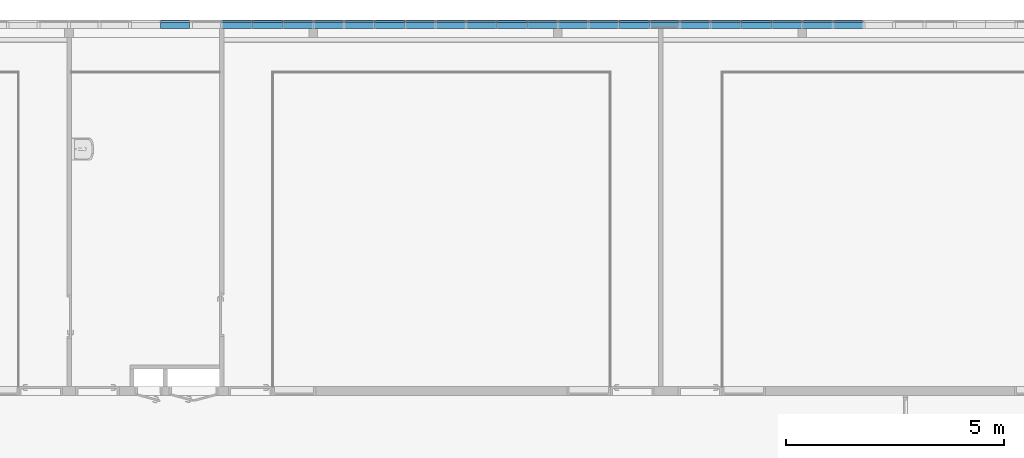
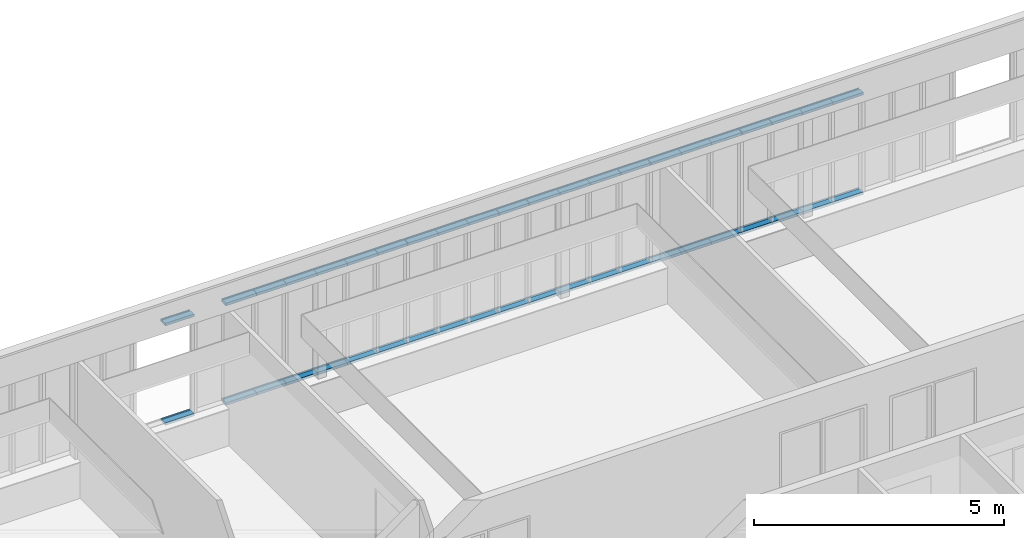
# One storey, part 11 of 87: 54 members, 1 element without a shape of its own.
"""IFC2X3 building model written with IfcOpenShell, lengths in centimetres."""

from ifc_helpers import new_model, entity, si_unit, converted_unit, derived_unit, direction, frame, origin, place, context, subcontext, project, spatial, polyline, outline, extrude, source, transform, mapped, material, type_object, type_shapes, element, aggregate, save


model = new_model("IFC2X3")

# Units and contexts
model_context = context("Model", 3, precision=0.001, world=origin(), true_north=direction((6.12303176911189e-17, 1.0)))
body_context = subcontext(model_context, "Body", "Model", "MODEL_VIEW")
ifc_project = project(units=[si_unit("LENGTHUNIT", "METRE", prefix="CENTI"), si_unit("AREAUNIT", "SQUARE_METRE"), si_unit("VOLUMEUNIT", "CUBIC_METRE"), converted_unit("PLANEANGLEUNIT", "DEGREE", entity("IfcRatioMeasure", 0.0174532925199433), si_unit("PLANEANGLEUNIT", "RADIAN"), dimensions=[0, 0, 0, 0, 0, 0, 0]), si_unit("MASSUNIT", "GRAM", prefix="KILO"), derived_unit("MASSDENSITYUNIT", [(si_unit("MASSUNIT", "GRAM", prefix="KILO"), 1), (si_unit("LENGTHUNIT", "METRE"), -3)]), si_unit("TIMEUNIT", "SECOND"), si_unit("FREQUENCYUNIT", "HERTZ"), si_unit("THERMODYNAMICTEMPERATUREUNIT", "DEGREE_CELSIUS"), derived_unit("THERMALTRANSMITTANCEUNIT", [(si_unit("MASSUNIT", "GRAM", prefix="KILO"), 1), (si_unit("THERMODYNAMICTEMPERATUREUNIT", "KELVIN"), -1), (si_unit("TIMEUNIT", "SECOND"), -3)]), derived_unit("VOLUMETRICFLOWRATEUNIT", [(si_unit("LENGTHUNIT", "METRE"), 3), (si_unit("TIMEUNIT", "SECOND"), -1)]), si_unit("ELECTRICCURRENTUNIT", "AMPERE"), si_unit("ELECTRICVOLTAGEUNIT", "VOLT"), si_unit("POWERUNIT", "WATT"), si_unit("FORCEUNIT", "NEWTON", prefix="KILO"), si_unit("ILLUMINANCEUNIT", "LUX"), si_unit("LUMINOUSFLUXUNIT", "LUMEN"), si_unit("LUMINOUSINTENSITYUNIT", "CANDELA"), derived_unit("USERDEFINED", [(si_unit("MASSUNIT", "GRAM", prefix="KILO"), -1), (si_unit("LENGTHUNIT", "METRE"), -2), (si_unit("TIMEUNIT", "SECOND"), 3), (si_unit("LUMINOUSFLUXUNIT", "LUMEN"), 1)]), derived_unit("LINEARVELOCITYUNIT", [(si_unit("LENGTHUNIT", "METRE"), 1), (si_unit("TIMEUNIT", "SECOND"), -1)]), si_unit("PRESSUREUNIT", "PASCAL"), derived_unit("USERDEFINED", [(si_unit("LENGTHUNIT", "METRE"), -2), (si_unit("MASSUNIT", "GRAM", prefix="KILO"), 1), (si_unit("TIMEUNIT", "SECOND"), -2)])], contexts=[model_context])

# Site, building, storey
site_placement = place(None, frame((-2781.94577612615, 7442.24238424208, 0.0)))
site = spatial("IfcSite", under=ifc_project, at=site_placement, Name="Default", CompositionType="ELEMENT")
building_placement = place(site_placement, origin())
building = spatial("IfcBuilding", under=site, at=building_placement, CompositionType="ELEMENT")
storey_placement = place(building_placement, frame((0.0, 0.0, 774.0)))
storey = spatial("IfcBuildingStorey", under=building, at=storey_placement, Name="TR - N02 - ARCH", CompositionType="ELEMENT", Elevation=774.0)

# Curtain wall, members
curtain_wall_type = type_object("IfcCurtainWallType", Name="Mur-rideau:07 - mur rideau trame 70cm", PredefinedType="NOTDEFINED")
curtain_wall_placement = place(storey_placement, frame((0.0, 0.0, -774.0)))
curtain_wall = element("IfcCurtainWall", 1, at=curtain_wall_placement, inside=storey, type_object=curtain_wall_type, Name="Mur-rideau:07 - mur rideau trame 70cm", ObjectType="Mur-rideau:07 - mur rideau trame 70cm")
ifc_material = material(Name="Aluminium")
member_type_1 = type_object("IfcMemberType", Name="150 x 25mm Détails", PredefinedType="MEMBER")
shared_shape_1 = source(origin(), body_context, "Body", "SweptSolid", [
    extrude(outline(polyline([(-5.6666666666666, -3.24999999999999), (-3.66666666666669, -3.24999999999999), (-3.66666666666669, -0.868749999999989), (-0.166666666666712, -0.868749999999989), (-0.166666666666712, -3.25000000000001), (13.3333333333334, -3.25000000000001), (13.3333333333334, 3.24999999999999), (-0.16666666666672, 3.24999999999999), (-0.16666666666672, 0.868749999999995), (-3.66666666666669, 0.868749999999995), (-3.66666666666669, 3.25), (-5.6666666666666, 3.25), (-5.6666666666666, -3.24999999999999)])), frame((-3.24999999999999, -1.96666666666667, -70.0), z_axis=(0.0, 0.0, 1.0), x_axis=(0.0, -1.0, 0.0)), (0.0, 0.0, 1.0), 69.9999999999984),
])
type_shapes(member_type_1, [shared_shape_1])
member_1_placement = place(storey_placement, frame((-5679.49987760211, 26.2000000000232, 332.5), z_axis=(-1.0, 0.0, 0.0), x_axis=(0.0, 0.0, 1.0)))
member_1 = element("IfcMember", 2, at=member_1_placement, type_object=member_type_1, material=ifc_material, Name="Meneau rectangulaire:150 x 25mm Détails", ObjectType="Meneau rectangulaire:150 x 25mm Détails", context=body_context, shape_type="MappedRepresentation", body=[
    mapped(shared_shape_1, transform((0.0, 0.0, 0.0), scale=1.0)),
])
member_2_placement = place(storey_placement, frame((-5749.4998776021, 26.2000000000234, 332.5), z_axis=(-1.0, 0.0, 0.0), x_axis=(0.0, 0.0, 1.0)))
member_2 = element("IfcMember", 3, at=member_2_placement, type_object=member_type_1, material=ifc_material, Name="Meneau rectangulaire:150 x 25mm Détails", ObjectType="Meneau rectangulaire:150 x 25mm Détails", context=body_context, shape_type="MappedRepresentation", body=[
    mapped(shared_shape_1, transform((0.0, 0.0, 0.0), scale=1.0)),
])
member_3_placement = place(storey_placement, frame((-5819.4998776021, 26.2000000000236, 332.5), z_axis=(-1.0, 0.0, 0.0), x_axis=(0.0, 0.0, 1.0)))
member_3 = element("IfcMember", 4, at=member_3_placement, type_object=member_type_1, material=ifc_material, Name="Meneau rectangulaire:150 x 25mm Détails", ObjectType="Meneau rectangulaire:150 x 25mm Détails", context=body_context, shape_type="MappedRepresentation", body=[
    mapped(shared_shape_1, transform((0.0, 0.0, 0.0), scale=1.0)),
])
member_4_placement = place(storey_placement, frame((-5889.4998776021, 26.2000000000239, 332.5), z_axis=(-1.0, 0.0, 0.0), x_axis=(0.0, 0.0, 1.0)))
member_4 = element("IfcMember", 5, at=member_4_placement, type_object=member_type_1, material=ifc_material, Name="Meneau rectangulaire:150 x 25mm Détails", ObjectType="Meneau rectangulaire:150 x 25mm Détails", context=body_context, shape_type="MappedRepresentation", body=[
    mapped(shared_shape_1, transform((0.0, 0.0, 0.0), scale=1.0)),
])
member_5_placement = place(storey_placement, frame((-5959.4998776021, 26.2000000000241, 332.5), z_axis=(-1.0, 0.0, 0.0), x_axis=(0.0, 0.0, 1.0)))
member_5 = element("IfcMember", 6, at=member_5_placement, type_object=member_type_1, material=ifc_material, Name="Meneau rectangulaire:150 x 25mm Détails", ObjectType="Meneau rectangulaire:150 x 25mm Détails", context=body_context, shape_type="MappedRepresentation", body=[
    mapped(shared_shape_1, transform((0.0, 0.0, 0.0), scale=1.0)),
])
member_6_placement = place(storey_placement, frame((-6029.49987760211, 26.2000000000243, 332.5), z_axis=(-1.0, 0.0, 0.0), x_axis=(0.0, 0.0, 1.0)))
member_6 = element("IfcMember", 7, at=member_6_placement, type_object=member_type_1, material=ifc_material, Name="Meneau rectangulaire:150 x 25mm Détails", ObjectType="Meneau rectangulaire:150 x 25mm Détails", context=body_context, shape_type="MappedRepresentation", body=[
    mapped(shared_shape_1, transform((0.0, 0.0, 0.0), scale=1.0)),
])
member_7_placement = place(storey_placement, frame((-6099.4998776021, 26.2000000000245, 332.5), z_axis=(-1.0, 0.0, 0.0), x_axis=(0.0, 0.0, 1.0)))
member_7 = element("IfcMember", 8, at=member_7_placement, type_object=member_type_1, material=ifc_material, Name="Meneau rectangulaire:150 x 25mm Détails", ObjectType="Meneau rectangulaire:150 x 25mm Détails", context=body_context, shape_type="MappedRepresentation", body=[
    mapped(shared_shape_1, transform((0.0, 0.0, 0.0), scale=1.0)),
])
member_8_placement = place(storey_placement, frame((-6169.4998776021, 26.2000000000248, 332.5), z_axis=(-1.0, 0.0, 0.0), x_axis=(0.0, 0.0, 1.0)))
member_8 = element("IfcMember", 9, at=member_8_placement, type_object=member_type_1, material=ifc_material, Name="Meneau rectangulaire:150 x 25mm Détails", ObjectType="Meneau rectangulaire:150 x 25mm Détails", context=body_context, shape_type="MappedRepresentation", body=[
    mapped(shared_shape_1, transform((0.0, 0.0, 0.0), scale=1.0)),
])
member_9_placement = place(storey_placement, frame((-6239.49987760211, 26.200000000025, 332.5), z_axis=(-1.0, 0.0, 0.0), x_axis=(0.0, 0.0, 1.0)))
member_9 = element("IfcMember", 10, at=member_9_placement, type_object=member_type_1, material=ifc_material, Name="Meneau rectangulaire:150 x 25mm Détails", ObjectType="Meneau rectangulaire:150 x 25mm Détails", context=body_context, shape_type="MappedRepresentation", body=[
    mapped(shared_shape_1, transform((0.0, 0.0, 0.0), scale=1.0)),
])
member_10_placement = place(storey_placement, frame((-6309.49987760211, 26.2000000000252, 332.5), z_axis=(-1.0, 0.0, 0.0), x_axis=(0.0, 0.0, 1.0)))
member_10 = element("IfcMember", 11, at=member_10_placement, type_object=member_type_1, material=ifc_material, Name="Meneau rectangulaire:150 x 25mm Détails", ObjectType="Meneau rectangulaire:150 x 25mm Détails", context=body_context, shape_type="MappedRepresentation", body=[
    mapped(shared_shape_1, transform((0.0, 0.0, 0.0), scale=1.0)),
])
member_11_placement = place(storey_placement, frame((-6379.49987760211, 26.2000000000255, 332.5), z_axis=(-1.0, 0.0, 0.0), x_axis=(0.0, 0.0, 1.0)))
member_11 = element("IfcMember", 12, at=member_11_placement, type_object=member_type_1, material=ifc_material, Name="Meneau rectangulaire:150 x 25mm Détails", ObjectType="Meneau rectangulaire:150 x 25mm Détails", context=body_context, shape_type="MappedRepresentation", body=[
    mapped(shared_shape_1, transform((0.0, 0.0, 0.0), scale=1.0)),
])
member_12_placement = place(storey_placement, frame((-6449.49987760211, 26.2000000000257, 332.5), z_axis=(-1.0, 0.0, 0.0), x_axis=(0.0, 0.0, 1.0)))
member_12 = element("IfcMember", 13, at=member_12_placement, type_object=member_type_1, material=ifc_material, Name="Meneau rectangulaire:150 x 25mm Détails", ObjectType="Meneau rectangulaire:150 x 25mm Détails", context=body_context, shape_type="MappedRepresentation", body=[
    mapped(shared_shape_1, transform((0.0, 0.0, 0.0), scale=1.0)),
])
member_13_placement = place(storey_placement, frame((-6519.49987760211, 26.2000000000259, 332.5), z_axis=(-1.0, 0.0, 0.0), x_axis=(0.0, 0.0, 1.0)))
member_13 = element("IfcMember", 14, at=member_13_placement, type_object=member_type_1, material=ifc_material, Name="Meneau rectangulaire:150 x 25mm Détails", ObjectType="Meneau rectangulaire:150 x 25mm Détails", context=body_context, shape_type="MappedRepresentation", body=[
    mapped(shared_shape_1, transform((0.0, 0.0, 0.0), scale=1.0)),
])
member_14_placement = place(storey_placement, frame((-6589.49987760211, 26.2000000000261, 332.5), z_axis=(-1.0, 0.0, 0.0), x_axis=(0.0, 0.0, 1.0)))
member_14 = element("IfcMember", 15, at=member_14_placement, type_object=member_type_1, material=ifc_material, Name="Meneau rectangulaire:150 x 25mm Détails", ObjectType="Meneau rectangulaire:150 x 25mm Détails", context=body_context, shape_type="MappedRepresentation", body=[
    mapped(shared_shape_1, transform((0.0, 0.0, 0.0), scale=1.0)),
])
member_15_placement = place(storey_placement, frame((-6659.49987760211, 26.2000000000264, 332.5), z_axis=(-1.0, 0.0, 0.0), x_axis=(0.0, 0.0, 1.0)))
member_15 = element("IfcMember", 16, at=member_15_placement, type_object=member_type_1, material=ifc_material, Name="Meneau rectangulaire:150 x 25mm Détails", ObjectType="Meneau rectangulaire:150 x 25mm Détails", context=body_context, shape_type="MappedRepresentation", body=[
    mapped(shared_shape_1, transform((0.0, 0.0, 0.0), scale=1.0)),
])
member_16_placement = place(storey_placement, frame((-6729.49987760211, 26.2000000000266, 332.5), z_axis=(-1.0, 0.0, 0.0), x_axis=(0.0, 0.0, 1.0)))
member_16 = element("IfcMember", 17, at=member_16_placement, type_object=member_type_1, material=ifc_material, Name="Meneau rectangulaire:150 x 25mm Détails", ObjectType="Meneau rectangulaire:150 x 25mm Détails", context=body_context, shape_type="MappedRepresentation", body=[
    mapped(shared_shape_1, transform((0.0, 0.0, 0.0), scale=1.0)),
])
member_17_placement = place(storey_placement, frame((-6799.49987760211, 26.2000000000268, 332.5), z_axis=(-1.0, 0.0, 0.0), x_axis=(0.0, 0.0, 1.0)))
member_17 = element("IfcMember", 18, at=member_17_placement, type_object=member_type_1, material=ifc_material, Name="Meneau rectangulaire:150 x 25mm Détails", ObjectType="Meneau rectangulaire:150 x 25mm Détails", context=body_context, shape_type="MappedRepresentation", body=[
    mapped(shared_shape_1, transform((0.0, 0.0, 0.0), scale=1.0)),
])
member_18_placement = place(storey_placement, frame((-6869.49987760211, 26.200000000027, 332.5), z_axis=(-1.0, 0.0, 0.0), x_axis=(0.0, 0.0, 1.0)))
member_18 = element("IfcMember", 19, at=member_18_placement, type_object=member_type_1, material=ifc_material, Name="Meneau rectangulaire:150 x 25mm Détails", ObjectType="Meneau rectangulaire:150 x 25mm Détails", context=body_context, shape_type="MappedRepresentation", body=[
    mapped(shared_shape_1, transform((0.0, 0.0, 0.0), scale=1.0)),
])
member_19_placement = place(storey_placement, frame((-6939.49987760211, 26.2000000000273, 332.5), z_axis=(-1.0, 0.0, 0.0), x_axis=(0.0, 0.0, 1.0)))
member_19 = element("IfcMember", 20, at=member_19_placement, type_object=member_type_1, material=ifc_material, Name="Meneau rectangulaire:150 x 25mm Détails", ObjectType="Meneau rectangulaire:150 x 25mm Détails", context=body_context, shape_type="MappedRepresentation", body=[
    mapped(shared_shape_1, transform((0.0, 0.0, 0.0), scale=1.0)),
])
member_20_placement = place(storey_placement, frame((-7009.49987760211, 26.2000000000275, 332.5), z_axis=(-1.0, 0.0, 0.0), x_axis=(0.0, 0.0, 1.0)))
member_20 = element("IfcMember", 21, at=member_20_placement, type_object=member_type_1, material=ifc_material, Name="Meneau rectangulaire:150 x 25mm Détails", ObjectType="Meneau rectangulaire:150 x 25mm Détails", context=body_context, shape_type="MappedRepresentation", body=[
    mapped(shared_shape_1, transform((0.0, 0.0, 0.0), scale=1.0)),
])
member_21_placement = place(storey_placement, frame((-7079.49987760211, 26.2000000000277, 332.5), z_axis=(-1.0, 0.0, 0.0), x_axis=(0.0, 0.0, 1.0)))
member_21 = element("IfcMember", 22, at=member_21_placement, type_object=member_type_1, material=ifc_material, Name="Meneau rectangulaire:150 x 25mm Détails", ObjectType="Meneau rectangulaire:150 x 25mm Détails", context=body_context, shape_type="MappedRepresentation", body=[
    mapped(shared_shape_1, transform((0.0, 0.0, 0.0), scale=1.0)),
])
member_type_2 = type_object("IfcMemberType", Name="150 x 25mm Détails", PredefinedType="MEMBER")
shared_shape_2 = source(origin(), body_context, "Body", "SweptSolid", [
    extrude(outline(polyline([(-5.66666666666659, -3.25), (-3.66666666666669, -3.25), (-3.66666666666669, -0.868749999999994), (-0.166666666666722, -0.868749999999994), (-0.166666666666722, -3.25000000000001), (13.3333333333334, -3.24999999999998), (13.3333333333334, 3.25000000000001), (-0.166666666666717, 3.25000000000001), (-0.166666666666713, 0.868749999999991), (-3.66666666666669, 0.868749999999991), (-3.66666666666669, 3.24999999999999), (-5.66666666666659, 3.24999999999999), (-5.66666666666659, -3.25)])), frame((-3.24999999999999, -1.96666666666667, -70.0), z_axis=(0.0, 0.0, 1.0), x_axis=(0.0, -1.0, 0.0)), (0.0, 0.0, 1.0), 69.9999999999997),
])
type_shapes(member_type_2, [shared_shape_2])
member_22_placement = place(storey_placement, frame((-5609.4998776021, 26.200000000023, 83.5), z_axis=(1.0, 0.0, 0.0), x_axis=(0.0, 0.0, -1.0)))
member_22 = element("IfcMember", 23, at=member_22_placement, type_object=member_type_2, material=ifc_material, Name="Meneau rectangulaire:150 x 25mm Détails", ObjectType="Meneau rectangulaire:150 x 25mm Détails", context=body_context, shape_type="MappedRepresentation", body=[
    mapped(shared_shape_2, transform((0.0, 0.0, 0.0), scale=1.0)),
])
member_23_placement = place(storey_placement, frame((-5679.49987760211, 26.2000000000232, 83.5), z_axis=(1.0, 0.0, 0.0), x_axis=(0.0, 0.0, -1.0)))
member_23 = element("IfcMember", 24, at=member_23_placement, type_object=member_type_2, material=ifc_material, Name="Meneau rectangulaire:150 x 25mm Détails", ObjectType="Meneau rectangulaire:150 x 25mm Détails", context=body_context, shape_type="MappedRepresentation", body=[
    mapped(shared_shape_2, transform((0.0, 0.0, 0.0), scale=1.0)),
])
member_24_placement = place(storey_placement, frame((-5749.4998776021, 26.2000000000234, 83.5), z_axis=(1.0, 0.0, 0.0), x_axis=(0.0, 0.0, -1.0)))
member_24 = element("IfcMember", 25, at=member_24_placement, type_object=member_type_2, material=ifc_material, Name="Meneau rectangulaire:150 x 25mm Détails", ObjectType="Meneau rectangulaire:150 x 25mm Détails", context=body_context, shape_type="MappedRepresentation", body=[
    mapped(shared_shape_2, transform((0.0, 0.0, 0.0), scale=1.0)),
])
member_25_placement = place(storey_placement, frame((-5819.4998776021, 26.2000000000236, 83.5), z_axis=(1.0, 0.0, 0.0), x_axis=(0.0, 0.0, -1.0)))
member_25 = element("IfcMember", 26, at=member_25_placement, type_object=member_type_2, material=ifc_material, Name="Meneau rectangulaire:150 x 25mm Détails", ObjectType="Meneau rectangulaire:150 x 25mm Détails", context=body_context, shape_type="MappedRepresentation", body=[
    mapped(shared_shape_2, transform((0.0, 0.0, 0.0), scale=1.0)),
])
member_26_placement = place(storey_placement, frame((-5889.4998776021, 26.2000000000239, 83.5), z_axis=(1.0, 0.0, 0.0), x_axis=(0.0, 0.0, -1.0)))
member_26 = element("IfcMember", 27, at=member_26_placement, type_object=member_type_2, material=ifc_material, Name="Meneau rectangulaire:150 x 25mm Détails", ObjectType="Meneau rectangulaire:150 x 25mm Détails", context=body_context, shape_type="MappedRepresentation", body=[
    mapped(shared_shape_2, transform((0.0, 0.0, 0.0), scale=1.0)),
])
member_27_placement = place(storey_placement, frame((-5959.4998776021, 26.2000000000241, 83.5), z_axis=(1.0, 0.0, 0.0), x_axis=(0.0, 0.0, -1.0)))
member_27 = element("IfcMember", 28, at=member_27_placement, type_object=member_type_2, material=ifc_material, Name="Meneau rectangulaire:150 x 25mm Détails", ObjectType="Meneau rectangulaire:150 x 25mm Détails", context=body_context, shape_type="MappedRepresentation", body=[
    mapped(shared_shape_2, transform((0.0, 0.0, 0.0), scale=1.0)),
])
member_28_placement = place(storey_placement, frame((-6029.49987760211, 26.2000000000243, 83.5), z_axis=(1.0, 0.0, 0.0), x_axis=(0.0, 0.0, -1.0)))
member_28 = element("IfcMember", 29, at=member_28_placement, type_object=member_type_2, material=ifc_material, Name="Meneau rectangulaire:150 x 25mm Détails", ObjectType="Meneau rectangulaire:150 x 25mm Détails", context=body_context, shape_type="MappedRepresentation", body=[
    mapped(shared_shape_2, transform((0.0, 0.0, 0.0), scale=1.0)),
])
member_29_placement = place(storey_placement, frame((-6099.4998776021, 26.2000000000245, 83.5), z_axis=(1.0, 0.0, 0.0), x_axis=(0.0, 0.0, -1.0)))
member_29 = element("IfcMember", 30, at=member_29_placement, type_object=member_type_2, material=ifc_material, Name="Meneau rectangulaire:150 x 25mm Détails", ObjectType="Meneau rectangulaire:150 x 25mm Détails", context=body_context, shape_type="MappedRepresentation", body=[
    mapped(shared_shape_2, transform((0.0, 0.0, 0.0), scale=1.0)),
])
member_30_placement = place(storey_placement, frame((-6169.4998776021, 26.2000000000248, 83.5), z_axis=(1.0, 0.0, 0.0), x_axis=(0.0, 0.0, -1.0)))
member_30 = element("IfcMember", 31, at=member_30_placement, type_object=member_type_2, material=ifc_material, Name="Meneau rectangulaire:150 x 25mm Détails", ObjectType="Meneau rectangulaire:150 x 25mm Détails", context=body_context, shape_type="MappedRepresentation", body=[
    mapped(shared_shape_2, transform((0.0, 0.0, 0.0), scale=1.0)),
])
member_31_placement = place(storey_placement, frame((-6239.49987760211, 26.200000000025, 83.5), z_axis=(1.0, 0.0, 0.0), x_axis=(0.0, 0.0, -1.0)))
member_31 = element("IfcMember", 32, at=member_31_placement, type_object=member_type_2, material=ifc_material, Name="Meneau rectangulaire:150 x 25mm Détails", ObjectType="Meneau rectangulaire:150 x 25mm Détails", context=body_context, shape_type="MappedRepresentation", body=[
    mapped(shared_shape_2, transform((0.0, 0.0, 0.0), scale=1.0)),
])
member_32_placement = place(storey_placement, frame((-6309.49987760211, 26.2000000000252, 83.5), z_axis=(1.0, 0.0, 0.0), x_axis=(0.0, 0.0, -1.0)))
member_32 = element("IfcMember", 33, at=member_32_placement, type_object=member_type_2, material=ifc_material, Name="Meneau rectangulaire:150 x 25mm Détails", ObjectType="Meneau rectangulaire:150 x 25mm Détails", context=body_context, shape_type="MappedRepresentation", body=[
    mapped(shared_shape_2, transform((0.0, 0.0, 0.0), scale=1.0)),
])
member_33_placement = place(storey_placement, frame((-6379.49987760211, 26.2000000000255, 83.5), z_axis=(1.0, 0.0, 0.0), x_axis=(0.0, 0.0, -1.0)))
member_33 = element("IfcMember", 34, at=member_33_placement, type_object=member_type_2, material=ifc_material, Name="Meneau rectangulaire:150 x 25mm Détails", ObjectType="Meneau rectangulaire:150 x 25mm Détails", context=body_context, shape_type="MappedRepresentation", body=[
    mapped(shared_shape_2, transform((0.0, 0.0, 0.0), scale=1.0)),
])
member_34_placement = place(storey_placement, frame((-6449.49987760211, 26.2000000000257, 83.5), z_axis=(1.0, 0.0, 0.0), x_axis=(0.0, 0.0, -1.0)))
member_34 = element("IfcMember", 35, at=member_34_placement, type_object=member_type_2, material=ifc_material, Name="Meneau rectangulaire:150 x 25mm Détails", ObjectType="Meneau rectangulaire:150 x 25mm Détails", context=body_context, shape_type="MappedRepresentation", body=[
    mapped(shared_shape_2, transform((0.0, 0.0, 0.0), scale=1.0)),
])
member_35_placement = place(storey_placement, frame((-6519.49987760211, 26.2000000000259, 83.5), z_axis=(1.0, 0.0, 0.0), x_axis=(0.0, 0.0, -1.0)))
member_35 = element("IfcMember", 36, at=member_35_placement, type_object=member_type_2, material=ifc_material, Name="Meneau rectangulaire:150 x 25mm Détails", ObjectType="Meneau rectangulaire:150 x 25mm Détails", context=body_context, shape_type="MappedRepresentation", body=[
    mapped(shared_shape_2, transform((0.0, 0.0, 0.0), scale=1.0)),
])
member_36_placement = place(storey_placement, frame((-6589.49987760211, 26.2000000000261, 83.5), z_axis=(1.0, 0.0, 0.0), x_axis=(0.0, 0.0, -1.0)))
member_36 = element("IfcMember", 37, at=member_36_placement, type_object=member_type_2, material=ifc_material, Name="Meneau rectangulaire:150 x 25mm Détails", ObjectType="Meneau rectangulaire:150 x 25mm Détails", context=body_context, shape_type="MappedRepresentation", body=[
    mapped(shared_shape_2, transform((0.0, 0.0, 0.0), scale=1.0)),
])
member_37_placement = place(storey_placement, frame((-6659.49987760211, 26.2000000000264, 83.5), z_axis=(1.0, 0.0, 0.0), x_axis=(0.0, 0.0, -1.0)))
member_37 = element("IfcMember", 38, at=member_37_placement, type_object=member_type_2, material=ifc_material, Name="Meneau rectangulaire:150 x 25mm Détails", ObjectType="Meneau rectangulaire:150 x 25mm Détails", context=body_context, shape_type="MappedRepresentation", body=[
    mapped(shared_shape_2, transform((0.0, 0.0, 0.0), scale=1.0)),
])
member_38_placement = place(storey_placement, frame((-6729.49987760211, 26.2000000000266, 83.5), z_axis=(1.0, 0.0, 0.0), x_axis=(0.0, 0.0, -1.0)))
member_38 = element("IfcMember", 39, at=member_38_placement, type_object=member_type_2, material=ifc_material, Name="Meneau rectangulaire:150 x 25mm Détails", ObjectType="Meneau rectangulaire:150 x 25mm Détails", context=body_context, shape_type="MappedRepresentation", body=[
    mapped(shared_shape_2, transform((0.0, 0.0, 0.0), scale=1.0)),
])
member_39_placement = place(storey_placement, frame((-6799.49987760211, 26.2000000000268, 83.5), z_axis=(1.0, 0.0, 0.0), x_axis=(0.0, 0.0, -1.0)))
member_39 = element("IfcMember", 40, at=member_39_placement, type_object=member_type_2, material=ifc_material, Name="Meneau rectangulaire:150 x 25mm Détails", ObjectType="Meneau rectangulaire:150 x 25mm Détails", context=body_context, shape_type="MappedRepresentation", body=[
    mapped(shared_shape_2, transform((0.0, 0.0, 0.0), scale=1.0)),
])
member_40_placement = place(storey_placement, frame((-6869.49987760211, 26.200000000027, 83.5), z_axis=(1.0, 0.0, 0.0), x_axis=(0.0, 0.0, -1.0)))
member_40 = element("IfcMember", 41, at=member_40_placement, type_object=member_type_2, material=ifc_material, Name="Meneau rectangulaire:150 x 25mm Détails", ObjectType="Meneau rectangulaire:150 x 25mm Détails", context=body_context, shape_type="MappedRepresentation", body=[
    mapped(shared_shape_2, transform((0.0, 0.0, 0.0), scale=1.0)),
])
member_41_placement = place(storey_placement, frame((-6939.49987760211, 26.2000000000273, 83.5), z_axis=(1.0, 0.0, 0.0), x_axis=(0.0, 0.0, -1.0)))
member_41 = element("IfcMember", 42, at=member_41_placement, type_object=member_type_2, material=ifc_material, Name="Meneau rectangulaire:150 x 25mm Détails", ObjectType="Meneau rectangulaire:150 x 25mm Détails", context=body_context, shape_type="MappedRepresentation", body=[
    mapped(shared_shape_2, transform((0.0, 0.0, 0.0), scale=1.0)),
])
member_42_placement = place(storey_placement, frame((-7009.49987760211, 26.2000000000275, 83.5), z_axis=(1.0, 0.0, 0.0), x_axis=(0.0, 0.0, -1.0)))
member_42 = element("IfcMember", 43, at=member_42_placement, type_object=member_type_2, material=ifc_material, Name="Meneau rectangulaire:150 x 25mm Détails", ObjectType="Meneau rectangulaire:150 x 25mm Détails", context=body_context, shape_type="MappedRepresentation", body=[
    mapped(shared_shape_2, transform((0.0, 0.0, 0.0), scale=1.0)),
])
member_type_3 = type_object("IfcMemberType", Name="150 x 25mm Détails", PredefinedType="MEMBER")
shared_shape_3 = source(origin(), body_context, "Body", "SweptSolid", [
    extrude(outline(polyline([(-5.66666666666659, -3.25), (-3.66666666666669, -3.25), (-3.66666666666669, -0.868749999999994), (-0.166666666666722, -0.868749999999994), (-0.166666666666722, -3.25000000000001), (13.3333333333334, -3.24999999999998), (13.3333333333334, 3.25000000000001), (-0.166666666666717, 3.25000000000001), (-0.166666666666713, 0.868749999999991), (-3.66666666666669, 0.868749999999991), (-3.66666666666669, 3.24999999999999), (-5.66666666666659, 3.24999999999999), (-5.66666666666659, -3.25)])), frame((-3.24999999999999, -1.96666666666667, -68.0), z_axis=(0.0, 0.0, 1.0), x_axis=(0.0, -1.0, 0.0)), (0.0, 0.0, 1.0), 68.0000000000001),
])
type_shapes(member_type_3, [shared_shape_3])
member_43_placement = place(storey_placement, frame((-5820.4686276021, 26.2000000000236, 326.0), z_axis=(1.0, 0.0, 0.0), x_axis=(0.0, 0.0, -1.0)))
member_43 = element("IfcMember", 44, at=member_43_placement, type_object=member_type_3, material=ifc_material, Name="Meneau rectangulaire:150 x 25mm Détails", ObjectType="Meneau rectangulaire:150 x 25mm Détails", context=body_context, shape_type="MappedRepresentation", body=[
    mapped(shared_shape_3, transform((0.0, 0.0, 0.0), scale=1.0)),
])
member_44_placement = place(storey_placement, frame((-6660.46862760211, 26.2000000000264, 326.0), z_axis=(1.0, 0.0, 0.0), x_axis=(0.0, 0.0, -1.0)))
member_44 = element("IfcMember", 45, at=member_44_placement, type_object=member_type_3, material=ifc_material, Name="Meneau rectangulaire:150 x 25mm Détails", ObjectType="Meneau rectangulaire:150 x 25mm Détails", context=body_context, shape_type="MappedRepresentation", body=[
    mapped(shared_shape_3, transform((0.0, 0.0, 0.0), scale=1.0)),
])
member_45_placement = place(storey_placement, frame((-6380.46862760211, 26.2000000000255, 326.0), z_axis=(1.0, 0.0, 0.0), x_axis=(0.0, 0.0, -1.0)))
member_45 = element("IfcMember", 46, at=member_45_placement, type_object=member_type_3, material=ifc_material, Name="Meneau rectangulaire:150 x 25mm Détails", ObjectType="Meneau rectangulaire:150 x 25mm Détails", context=body_context, shape_type="MappedRepresentation", body=[
    mapped(shared_shape_3, transform((0.0, 0.0, 0.0), scale=1.0)),
])
member_46_placement = place(storey_placement, frame((-6940.4686276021, 26.2000000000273, 326.0), z_axis=(1.0, 0.0, 0.0), x_axis=(0.0, 0.0, -1.0)))
member_46 = element("IfcMember", 47, at=member_46_placement, type_object=member_type_3, material=ifc_material, Name="Meneau rectangulaire:150 x 25mm Détails", ObjectType="Meneau rectangulaire:150 x 25mm Détails", context=body_context, shape_type="MappedRepresentation", body=[
    mapped(shared_shape_3, transform((0.0, 0.0, 0.0), scale=1.0)),
])
member_47_placement = place(storey_placement, frame((-6100.46862760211, 26.2000000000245, 326.0), z_axis=(1.0, 0.0, 0.0), x_axis=(0.0, 0.0, -1.0)))
member_47 = element("IfcMember", 48, at=member_47_placement, type_object=member_type_3, material=ifc_material, Name="Meneau rectangulaire:150 x 25mm Détails", ObjectType="Meneau rectangulaire:150 x 25mm Détails", context=body_context, shape_type="MappedRepresentation", body=[
    mapped(shared_shape_3, transform((0.0, 0.0, 0.0), scale=1.0)),
])
member_type_4 = type_object("IfcMemberType", Name="150 x 25mm Détails", PredefinedType="MEMBER")
shared_shape_4 = source(origin(), body_context, "Body", "SweptSolid", [
    extrude(outline(polyline([(-5.66666666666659, -3.25), (-3.66666666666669, -3.25), (-3.66666666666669, -0.868749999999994), (-0.166666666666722, -0.868749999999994), (-0.166666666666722, -3.25000000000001), (13.3333333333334, -3.24999999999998), (13.3333333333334, 3.25000000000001), (-0.166666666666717, 3.25000000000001), (-0.166666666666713, 0.868749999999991), (-3.66666666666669, 0.868749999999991), (-3.66666666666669, 3.24999999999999), (-5.66666666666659, 3.24999999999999), (-5.66666666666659, -3.25)])), frame((-3.24999999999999, -1.96666666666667, -66.7499999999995), z_axis=(0.0, 0.0, 1.0), x_axis=(0.0, -1.0, 0.0)), (0.0, 0.0, 1.0), 66.7499999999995),
])
type_shapes(member_type_4, [shared_shape_4])
member_48_placement = place(storey_placement, frame((-7152.74987760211, 26.200000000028, 326.0), z_axis=(1.0, 0.0, 0.0), x_axis=(0.0, 0.0, -1.0)))
member_48 = element("IfcMember", 49, at=member_48_placement, type_object=member_type_4, material=ifc_material, Name="Meneau rectangulaire:150 x 25mm Détails", ObjectType="Meneau rectangulaire:150 x 25mm Détails", context=body_context, shape_type="MappedRepresentation", body=[
    mapped(shared_shape_4, transform((0.0, 0.0, 0.0), scale=1.0)),
])
member_type_5 = type_object("IfcMemberType", Name="150 x 25mm Détails", PredefinedType="MEMBER")
shared_shape_5 = source(origin(), body_context, "Body", "SweptSolid", [
    extrude(outline(polyline([(-5.6666666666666, -3.24999999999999), (-3.66666666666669, -3.24999999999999), (-3.66666666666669, -0.868749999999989), (-0.166666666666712, -0.868749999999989), (-0.166666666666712, -3.25000000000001), (13.3333333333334, -3.25000000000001), (13.3333333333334, 3.24999999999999), (-0.16666666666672, 3.24999999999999), (-0.16666666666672, 0.868749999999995), (-3.66666666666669, 0.868749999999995), (-3.66666666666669, 3.25), (-5.6666666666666, 3.25), (-5.6666666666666, -3.24999999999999)])), frame((-3.24999999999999, -1.96666666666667, -68.0), z_axis=(0.0, 0.0, 1.0), x_axis=(0.0, -1.0, 0.0)), (0.0, 0.0, 1.0), 68.0000000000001),
])
type_shapes(member_type_5, [shared_shape_5])
member_49_placement = place(storey_placement, frame((-5888.4686276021, 26.2000000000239, 90.0), z_axis=(-1.0, 0.0, 0.0), x_axis=(0.0, 0.0, 1.0)))
member_49 = element("IfcMember", 50, at=member_49_placement, type_object=member_type_5, material=ifc_material, Name="Meneau rectangulaire:150 x 25mm Détails", ObjectType="Meneau rectangulaire:150 x 25mm Détails", context=body_context, shape_type="MappedRepresentation", body=[
    mapped(shared_shape_5, transform((0.0, 0.0, 0.0), scale=1.0)),
])
member_50_placement = place(storey_placement, frame((-6728.46862760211, 26.2000000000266, 90.0), z_axis=(-1.0, 0.0, 0.0), x_axis=(0.0, 0.0, 1.0)))
member_50 = element("IfcMember", 51, at=member_50_placement, type_object=member_type_5, material=ifc_material, Name="Meneau rectangulaire:150 x 25mm Détails", ObjectType="Meneau rectangulaire:150 x 25mm Détails", context=body_context, shape_type="MappedRepresentation", body=[
    mapped(shared_shape_5, transform((0.0, 0.0, 0.0), scale=1.0)),
])
member_51_placement = place(storey_placement, frame((-6448.46862760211, 26.2000000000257, 90.0), z_axis=(-1.0, 0.0, 0.0), x_axis=(0.0, 0.0, 1.0)))
member_51 = element("IfcMember", 52, at=member_51_placement, type_object=member_type_5, material=ifc_material, Name="Meneau rectangulaire:150 x 25mm Détails", ObjectType="Meneau rectangulaire:150 x 25mm Détails", context=body_context, shape_type="MappedRepresentation", body=[
    mapped(shared_shape_5, transform((0.0, 0.0, 0.0), scale=1.0)),
])
member_52_placement = place(storey_placement, frame((-7008.4686276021, 26.2000000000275, 90.0), z_axis=(-1.0, 0.0, 0.0), x_axis=(0.0, 0.0, 1.0)))
member_52 = element("IfcMember", 53, at=member_52_placement, type_object=member_type_5, material=ifc_material, Name="Meneau rectangulaire:150 x 25mm Détails", ObjectType="Meneau rectangulaire:150 x 25mm Détails", context=body_context, shape_type="MappedRepresentation", body=[
    mapped(shared_shape_5, transform((0.0, 0.0, 0.0), scale=1.0)),
])
member_53_placement = place(storey_placement, frame((-6168.46862760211, 26.2000000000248, 90.0), z_axis=(-1.0, 0.0, 0.0), x_axis=(0.0, 0.0, 1.0)))
member_53 = element("IfcMember", 54, at=member_53_placement, type_object=member_type_5, material=ifc_material, Name="Meneau rectangulaire:150 x 25mm Détails", ObjectType="Meneau rectangulaire:150 x 25mm Détails", context=body_context, shape_type="MappedRepresentation", body=[
    mapped(shared_shape_5, transform((0.0, 0.0, 0.0), scale=1.0)),
])
member_type_6 = type_object("IfcMemberType", Name="150 x 25mm Détails", PredefinedType="MEMBER")
shared_shape_6 = source(origin(), body_context, "Body", "SweptSolid", [
    extrude(outline(polyline([(-5.6666666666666, -3.24999999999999), (-3.66666666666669, -3.24999999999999), (-3.66666666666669, -0.868749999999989), (-0.166666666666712, -0.868749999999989), (-0.166666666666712, -3.25000000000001), (13.3333333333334, -3.25000000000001), (13.3333333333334, 3.24999999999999), (-0.16666666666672, 3.24999999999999), (-0.16666666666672, 0.868749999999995), (-3.66666666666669, 0.868749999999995), (-3.66666666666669, 3.25), (-5.6666666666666, 3.25), (-5.6666666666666, -3.24999999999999)])), frame((-3.24999999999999, -1.96666666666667, -66.7500000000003), z_axis=(0.0, 0.0, 1.0), x_axis=(0.0, -1.0, 0.0)), (0.0, 0.0, 1.0), 66.7500000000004),
])
type_shapes(member_type_6, [shared_shape_6])
member_54_placement = place(storey_placement, frame((-7219.49987760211, 26.2000000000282, 90.0), z_axis=(-1.0, 0.0, 0.0), x_axis=(0.0, 0.0, 1.0)))
member_54 = element("IfcMember", 55, at=member_54_placement, type_object=member_type_6, material=ifc_material, Name="Meneau rectangulaire:150 x 25mm Détails", ObjectType="Meneau rectangulaire:150 x 25mm Détails", context=body_context, shape_type="MappedRepresentation", body=[
    mapped(shared_shape_6, transform((0.0, 0.0, 0.0), scale=1.0)),
])
aggregate(curtain_wall, [member_1, member_2, member_3, member_4, member_5, member_6, member_7, member_8, member_9, member_10, member_11, member_12, member_13, member_14, member_15, member_16, member_17, member_18, member_19, member_20, member_21, member_22, member_23, member_24, member_25, member_26, member_27, member_28, member_29, member_30, member_31, member_32, member_33, member_34, member_35, member_36, member_37, member_38, member_39, member_40, member_41, member_42, member_43, member_49, member_44, member_45, member_46, member_50, member_51, member_52, member_47, member_53, member_48, member_54])

save(model, "model.ifc")
